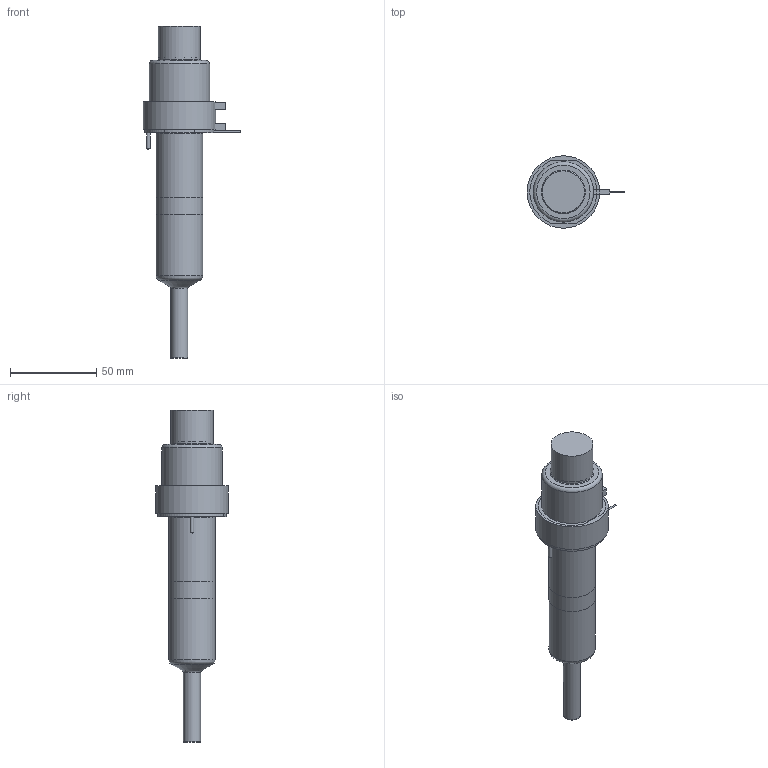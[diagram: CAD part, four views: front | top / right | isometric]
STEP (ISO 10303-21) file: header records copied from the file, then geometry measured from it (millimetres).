
FILE_DESCRIPTION(/* description */ (''),/* implementation_level */ '2;1');
FILE_NAME(/* name */ 'SXTSL-SXISL-SXOSL13095_200C_b',/* time_stamp */ '2008-04-30T09:06:40+12:00',/* author */ (''),/* organization */ (''),/* preprocessor_version */ 'ST-DEVELOPER v9',/* originating_system */ 'UGS - NX 4.0',/* authorisation */ '');
FILE_SCHEMA (('CONFIG_CONTROL_DESIGN'));
Length unit declared in the file: millimetre
Products named in the file (1): SXTSL-SXISL-SXOSL13095_200C_b
Bounding box: 56.65 x 42 x 192.54 mm (x, y, z)
Volume: 192454.1 mm3; surface area: 35661 mm2
Topology: 7 solids, 7 shells, 92 faces, 180 edges, 116 vertices
Faces by surface type: plane 45, cylinder 28, torus 9, cone 9, bspline 1
Full cylindrical faces by diameter (mm): 0.9 x1, 1 x3, 2 x2, 6 x1, 9.61 x1, 10.01 x2, 12.6 x1, 22.2 x1, 24 x1, 24.4 x1, 27 x2, 31.8 x1, 35 x1, 40 x1, 42 x1
Entity records: 2250 total; most frequent: CARTESIAN_POINT 438, DIRECTION 382, ORIENTED_EDGE 268, AXIS2_PLACEMENT_3D 166, EDGE_LOOP 142, EDGE_CURVE 134, VERTEX_POINT 107, ADVANCED_FACE 92
